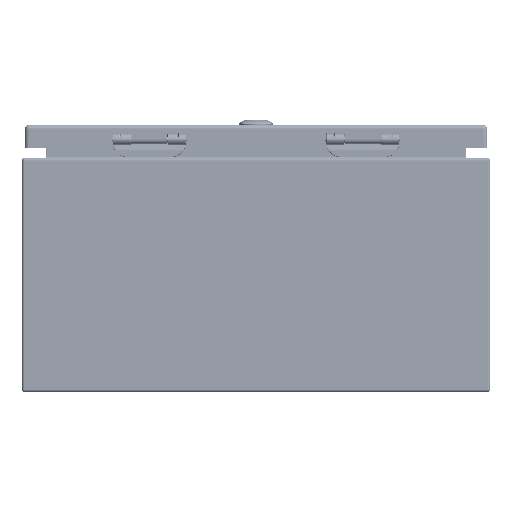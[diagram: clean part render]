
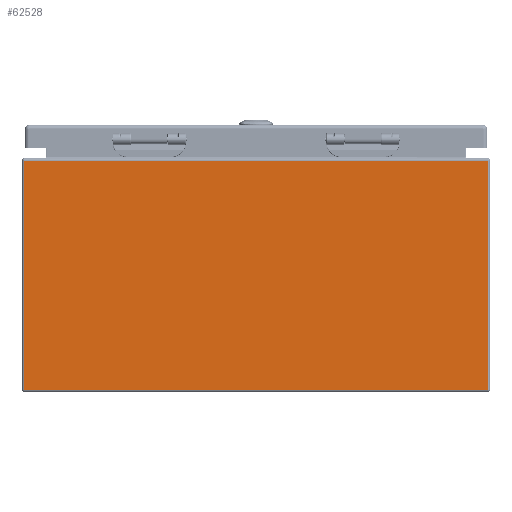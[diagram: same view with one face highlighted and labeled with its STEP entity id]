
A CAD part, left-side view. The second image highlights one B-rep face of the part: STEP entity #62528.
In plain terms, the highlighted planar face has unit normal (-1, 0, 0).
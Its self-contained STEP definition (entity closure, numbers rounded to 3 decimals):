
#6261=LINE('',#87313,#10038);
#6272=LINE('',#87354,#10049);
#6276=LINE('',#87369,#10053);
#6277=LINE('',#87370,#10054);
#10038=VECTOR('',#72760,0.394);
#10049=VECTOR('',#72809,0.394);
#10053=VECTOR('',#72827,0.394);
#10054=VECTOR('',#72828,0.394);
#14802=FACE_OUTER_BOUND('',#18664,.T.);
#18664=EDGE_LOOP('',(#41591,#41592,#41593,#41594));
#25035=VERTEX_POINT('',#87306);
#25036=VERTEX_POINT('',#87311);
#25047=VERTEX_POINT('',#87353);
#25051=VERTEX_POINT('',#87368);
#31424=EDGE_CURVE('',#25036,#25035,#6261,.T.);
#31444=EDGE_CURVE('',#25035,#25047,#6272,.T.);
#31452=EDGE_CURVE('',#25051,#25036,#6276,.T.);
#31453=EDGE_CURVE('',#25051,#25047,#6277,.T.);
#41591=ORIENTED_EDGE('',*,*,#31424,.F.);
#41592=ORIENTED_EDGE('',*,*,#31452,.F.);
#41593=ORIENTED_EDGE('',*,*,#31453,.T.);
#41594=ORIENTED_EDGE('',*,*,#31444,.F.);
#61208=PLANE('',#67279);
#62528=ADVANCED_FACE('',(#14802),#61208,.F.);
#67279=AXIS2_PLACEMENT_3D('',#87367,#72825,#72826);
#72760=DIRECTION('',(0.,-1.,0.));
#72809=DIRECTION('',(0.,0.,-1.));
#72825=DIRECTION('center_axis',(1.,0.,0.));
#72826=DIRECTION('ref_axis',(0.,0.,-1.));
#72827=DIRECTION('',(0.,0.,1.));
#72828=DIRECTION('',(0.,-1.,0.));
#87306=CARTESIAN_POINT('',(-10.,-7.916,7.916));
#87311=CARTESIAN_POINT('',(-10.,7.916,7.916));
#87313=CARTESIAN_POINT('',(-10.,-3.979,7.916));
#87353=CARTESIAN_POINT('',(-10.,-7.916,0.084));
#87354=CARTESIAN_POINT('',(-10.,-7.916,4.));
#87367=CARTESIAN_POINT('Origin',(-10.,0.,4.));
#87368=CARTESIAN_POINT('',(-10.,7.916,0.084));
#87369=CARTESIAN_POINT('',(-10.,7.916,4.));
#87370=CARTESIAN_POINT('',(-10.,4.,0.084));
